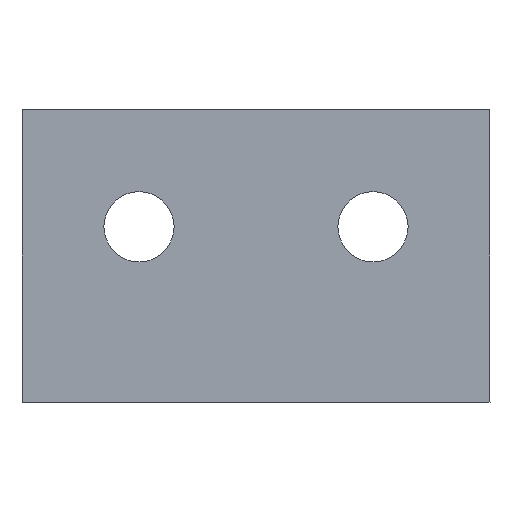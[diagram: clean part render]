
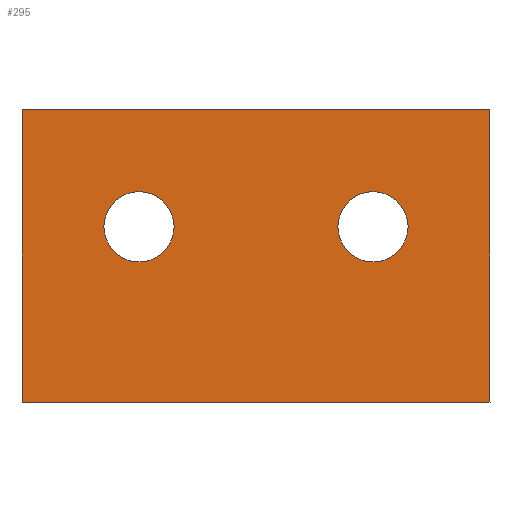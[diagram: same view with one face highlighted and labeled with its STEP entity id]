
A CAD part, front view. The second image highlights one B-rep face of the part: STEP entity #295.
In plain terms, the highlighted planar face has unit normal (0, -1, 0).
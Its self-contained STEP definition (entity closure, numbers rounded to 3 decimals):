
#21=FACE_BOUND('',#61,.T.);
#22=FACE_BOUND('',#62,.T.);
#31=CIRCLE('',#327,3.);
#32=CIRCLE('',#328,3.);
#43=FACE_OUTER_BOUND('',#60,.T.);
#60=EDGE_LOOP('',(#206,#207,#208,#209));
#61=EDGE_LOOP('',(#210));
#62=EDGE_LOOP('',(#211));
#87=LINE('',#446,#114);
#88=LINE('',#448,#115);
#89=LINE('',#450,#116);
#90=LINE('',#451,#117);
#114=VECTOR('',#359,10.);
#115=VECTOR('',#360,10.);
#116=VECTOR('',#361,10.);
#117=VECTOR('',#362,10.);
#141=VERTEX_POINT('',#444);
#142=VERTEX_POINT('',#445);
#143=VERTEX_POINT('',#447);
#144=VERTEX_POINT('',#449);
#145=VERTEX_POINT('',#452);
#146=VERTEX_POINT('',#454);
#167=EDGE_CURVE('',#141,#142,#87,.T.);
#168=EDGE_CURVE('',#142,#143,#88,.T.);
#169=EDGE_CURVE('',#143,#144,#89,.T.);
#170=EDGE_CURVE('',#144,#141,#90,.T.);
#171=EDGE_CURVE('',#145,#145,#31,.T.);
#172=EDGE_CURVE('',#146,#146,#32,.T.);
#206=ORIENTED_EDGE('',*,*,#167,.T.);
#207=ORIENTED_EDGE('',*,*,#168,.T.);
#208=ORIENTED_EDGE('',*,*,#169,.T.);
#209=ORIENTED_EDGE('',*,*,#170,.T.);
#210=ORIENTED_EDGE('',*,*,#171,.T.);
#211=ORIENTED_EDGE('',*,*,#172,.T.);
#284=PLANE('',#326);
#295=ADVANCED_FACE('',(#43,#21,#22),#284,.F.);
#326=AXIS2_PLACEMENT_3D('',#443,#357,#358);
#327=AXIS2_PLACEMENT_3D('',#453,#363,#364);
#328=AXIS2_PLACEMENT_3D('',#455,#365,#366);
#357=DIRECTION('center_axis',(0.,1.,0.));
#358=DIRECTION('ref_axis',(1.,0.,0.));
#359=DIRECTION('',(0.,0.,-1.));
#360=DIRECTION('',(1.,0.,0.));
#361=DIRECTION('',(0.,0.,1.));
#362=DIRECTION('',(-1.,0.,0.));
#363=DIRECTION('center_axis',(0.,1.,0.));
#364=DIRECTION('ref_axis',(1.,0.,0.));
#365=DIRECTION('center_axis',(0.,1.,0.));
#366=DIRECTION('ref_axis',(1.,0.,0.));
#443=CARTESIAN_POINT('Origin',(0.,-5.5,-2.5));
#444=CARTESIAN_POINT('',(-20.,-5.5,10.));
#445=CARTESIAN_POINT('',(-20.,-5.5,-15.));
#446=CARTESIAN_POINT('',(-20.,-5.5,-15.));
#447=CARTESIAN_POINT('',(20.,-5.5,-15.));
#448=CARTESIAN_POINT('',(20.,-5.5,-15.));
#449=CARTESIAN_POINT('',(20.,-5.5,10.));
#450=CARTESIAN_POINT('',(20.,-5.5,10.));
#451=CARTESIAN_POINT('',(-20.,-5.5,10.));
#452=CARTESIAN_POINT('',(-13.,-5.5,0.));
#453=CARTESIAN_POINT('Origin',(-10.,-5.5,0.));
#454=CARTESIAN_POINT('',(7.,-5.5,0.));
#455=CARTESIAN_POINT('Origin',(10.,-5.5,0.));
